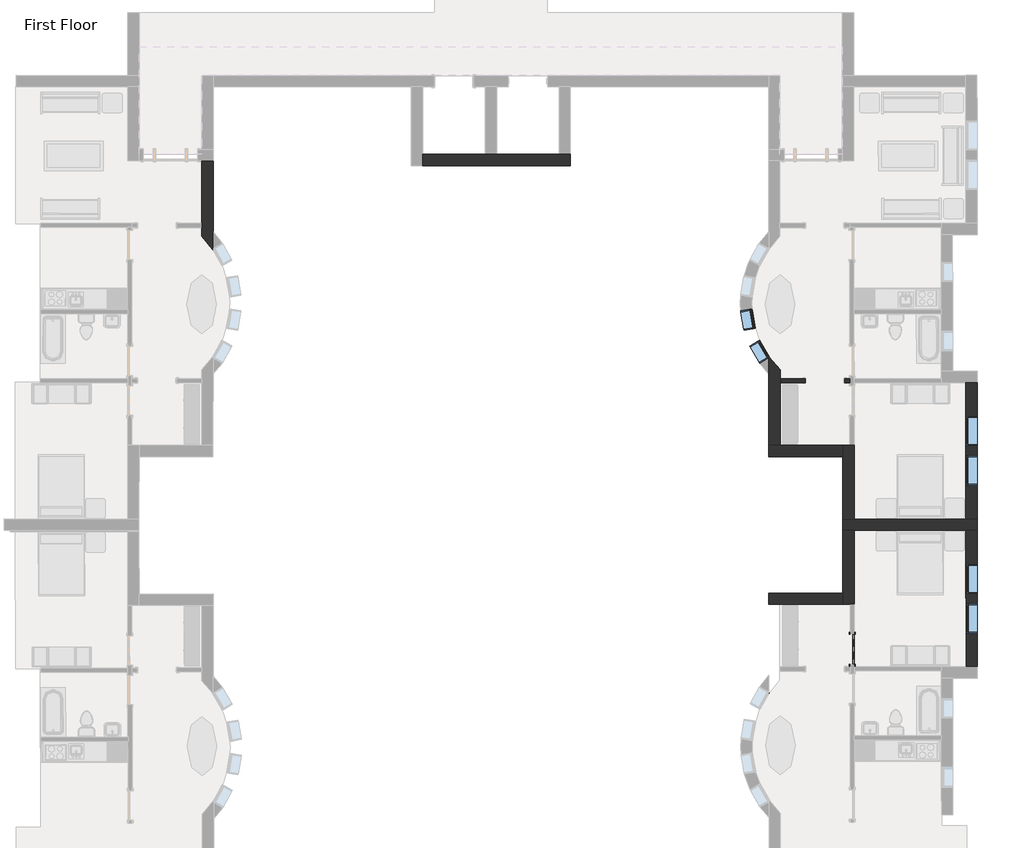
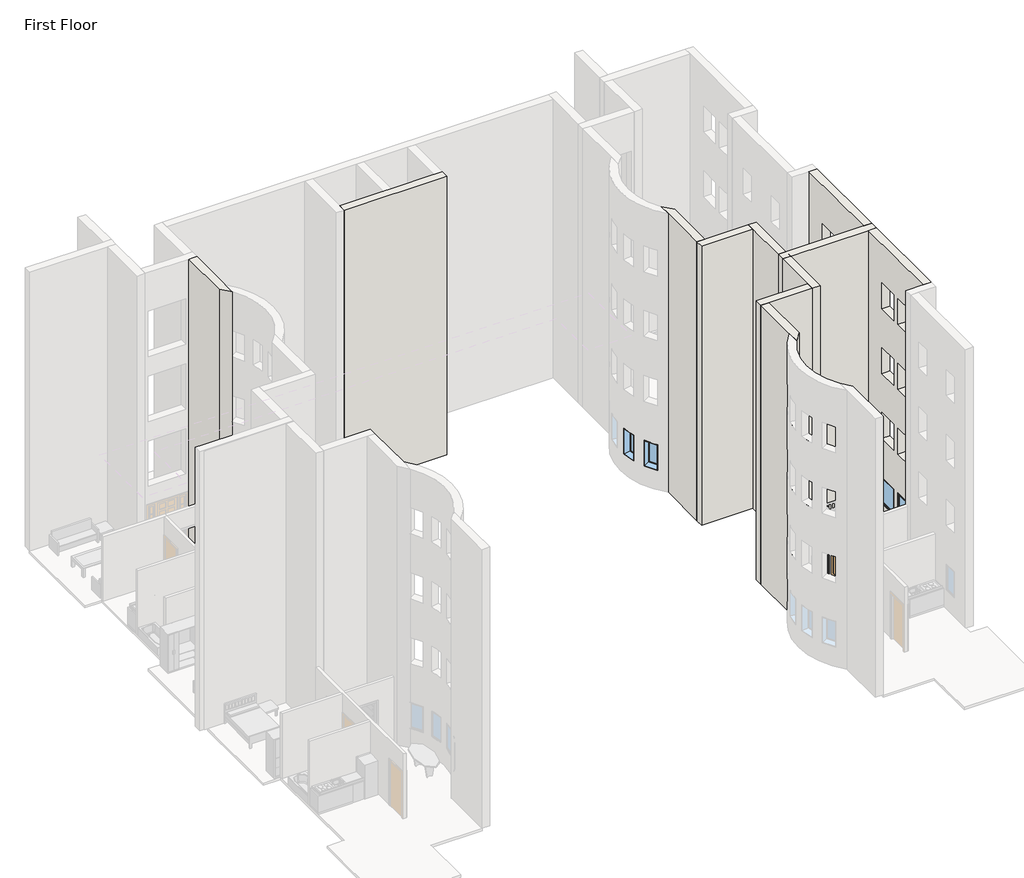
# One storey, part 10 of 21: 13 walls, 6 windows, 1 door.
"""IFC4 building model written with IfcOpenShell, lengths in millimetres."""

from ifc_helpers import new_model, si_unit, frame, origin, origin_with_axes, place, context, project, spatial, polyline, circle_curve, outline, extrude, faceted_brep, transform, mapped, element, save
from ifc_brep_helpers import plane_surface, revolved_surface, advanced_brep
from components import door_2e3b4da2, window_ed80354a, window_15c49d37, window_0e2fc6ce

model = new_model("IFC4")

# Units and contexts
model_context = context("Model", 3, world=origin())
ifc_project = project(units=[si_unit("LENGTHUNIT", "METRE", prefix="MILLI")], contexts=[model_context])

# Site, building, storey
site = spatial("IfcSite", under=ifc_project)
building = spatial("IfcBuilding", under=site)
storey = spatial("IfcBuildingStorey", under=building, Name="First Floor", Elevation=0.0)

# Door
placement = place(None, origin())
door_shape = door_2e3b4da2(model_context)
element("IfcDoor", 1, ObjectType="Single-Decorative 2 : 36\" x 84\"", at=placement, inside=storey, context=model_context, shape_type="MappedRepresentation", body=[
    mapped(door_shape, transform((-3761.7306035, -15502.2904409, 0.0), x_axis=(0.0007588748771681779, -0.9999997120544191, 0.0), y_axis=(0.9999997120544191, 0.0007588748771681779, 0.0), z_axis=(0.0, 0.0, 1.0))),
])

# Walls
element("IfcWall", 2, ObjectType="Exterior - Brick on Mtl. Stud", at=placement, inside=storey, context=model_context, shape_type="Brep", body=[
    faceted_brep([(-17044.9589563, -550.3808133, 0.0), (-12472.9589563, -550.3808133, 0.0), (-12472.9589563, -550.3808133, 13106.4), (-17044.9589563, -550.3808133, 13106.4), (-17044.9589563, -197.9558133, 0.0), (-17044.9589563, -197.9558133, 13106.4), (-15111.3839563, -197.9558133, 13106.4), (-14758.9589563, -197.9558133, 13106.4), (-12825.3839563, -197.9558133, 13106.4), (-12472.9589563, -197.9558133, 13106.4), (-12472.9589563, -197.9558133, 0.0), (-12825.3839563, -197.9558133, 0.0), (-14758.9589563, -197.9558133, 0.0), (-15111.3839563, -197.9558133, 0.0)], [[[0, 1, 2, 3]], [[4, 5, 6, 7, 8, 9, 10, 11, 12, 13]], [[1, 0, 4, 13, 12, 11, 10]], [[3, 2, 9, 8, 7, 6, 5]], [[2, 1, 10, 9]], [[0, 3, 5, 4]]]),
])
element("IfcWall", 3, ObjectType="Exterior - Brick on Mtl. Stud", at=placement, inside=storey, context=model_context, shape_type="Brep", body=[
    faceted_brep([(108.7131267, -11473.4520983, 0.0), (-243.7117718, -11473.7195448, 0.0), (-3701.2857762, -11476.3434116, 0.0), (-4053.7106747, -11476.6108581, 0.0), (-4053.7106747, -11476.6108581, 13106.4), (-3701.2857762, -11476.3434116, 13106.4), (-243.7117718, -11473.7195448, 13106.4), (108.7131267, -11473.4520983, 13106.4), (108.9805732, -11825.8769968, 0.0), (108.9805732, -11825.8769968, 13106.4), (-243.4443253, -11826.1444433, 13106.4), (-3701.0183297, -11828.7683101, 13106.4), (-4053.4432282, -11829.0357566, 13106.4), (-4053.4432282, -11829.0357566, 0.0), (-3701.0183297, -11828.7683101, 0.0), (-243.4443253, -11826.1444433, 0.0)], [[[0, 1, 2, 3, 4, 5, 6, 7]], [[8, 9, 10, 11, 12, 13, 14, 15]], [[3, 2, 1, 0, 8, 15, 14, 13]], [[7, 6, 5, 4, 12, 11, 10, 9]], [[4, 3, 13, 12]], [[0, 7, 9, 8]]]),
])
element("IfcWall", 4, ObjectType="Exterior - Brick on Mtl. Stud", at=placement, inside=storey, context=model_context, shape_type="Brep", body=[
    faceted_brep([(-3701.2857762, -11476.3434116, 0.0), (-3703.0205642, -9190.3440698, 0.0), (-3703.0205642, -9190.3440698, 13106.4), (-3701.2857762, -11476.3434116, 13106.4), (-4053.7106747, -11476.6108581, 0.0), (-4053.7106747, -11476.6108581, 13106.4), (-4055.1780162, -9543.0364148, 13106.4), (-4055.4454627, -9190.6115163, 13106.4), (-4055.4454627, -9190.6115163, 0.0), (-4055.1780162, -9543.0364148, 0.0)], [[[0, 1, 2, 3]], [[4, 5, 6, 7, 8, 9]], [[1, 0, 4, 9, 8]], [[3, 2, 7, 6, 5]], [[2, 1, 8, 7]], [[0, 3, 5, 4]]]),
])
element("IfcWall", 5, ObjectType="Exterior - Brick on Mtl. Stud", at=placement, inside=storey, context=model_context, shape_type="Brep", body=[
    faceted_brep([(-4055.4454627, -9190.6115163, 0.0), (-5989.0199059, -9192.0788578, 0.0), (-6341.4448044, -9192.3463043, 0.0), (-6341.4448044, -9192.3463043, 13106.4), (-5989.0199059, -9192.0788578, 13106.4), (-4055.4454627, -9190.6115163, 13106.4), (-4055.1780162, -9543.0364148, 0.0), (-4055.1780162, -9543.0364148, 13106.4), (-6341.177358, -9544.7712028, 13106.4), (-6341.177358, -9544.7712028, 0.0)], [[[0, 1, 2, 3, 4, 5]], [[6, 7, 8, 9]], [[2, 1, 0, 6, 9]], [[5, 4, 3, 8, 7]], [[3, 2, 9, 8]], [[0, 5, 7, 6]]]),
])
element("IfcWall", 6, ObjectType="Exterior - Brick on Mtl. Stud", at=placement, inside=storey, context=model_context, shape_type="AdvancedBrep", body=[
    advanced_brep(
    [(-5990.7921847, -6856.676378, 0.0), (-5990.5836245, -7131.5044511, 0.0), (-5990.4872474, -7258.5044146, 0.0), (-5989.0199059, -9192.0788578, 0.0), (-6341.4448044, -9192.3463043, 0.0), (-6343.1078046, -7000.9446693, 0.0), (-6343.5311767, -6443.0502457, 0.0), (-5989.0199059, -9192.0788578, 13106.4), (-5990.7921847, -6856.676378, 13106.4), (-6343.5311767, -6443.0502457, 13106.4), (-6343.1078046, -7000.9446693, 13106.4), (-6341.4448044, -9192.3463043, 13106.4), (-6343.5311767, -6443.0502457, 11277.6), (-6343.4937731, -6492.3384795, 11277.6), (-6343.4937731, -6492.3384795, 10058.4), (-6343.5311767, -6443.0502457, 10058.4), (-6343.5311767, -6443.0502457, 8229.6), (-6343.4937731, -6492.3384795, 8229.6), (-6343.4937731, -6492.3384795, 7010.4), (-6343.5311767, -6443.0502457, 7010.4), (-6343.5311767, -6443.0502457, 5181.6), (-6343.4937731, -6492.3384795, 5181.6), (-6343.4937731, -6492.3384795, 3962.4), (-6343.5311767, -6443.0502457, 3962.4), (-6343.5311767, -6443.0502457, 2133.6), (-6343.4937731, -6492.3384795, 2133.6), (-6343.4937731, -6492.3384795, 914.4), (-6343.5311767, -6443.0502457, 914.4), (-6338.0556769, -6450.8349117, 914.4), (-6338.0556769, -6450.8349117, 2133.6), (-6338.0556769, -6450.8349117, 3962.4), (-6338.0556769, -6450.8349117, 5181.6), (-6338.0556769, -6450.8349117, 7010.4), (-6338.0556769, -6450.8349117, 8229.6), (-6338.0556769, -6450.8349117, 10058.4), (-6338.0556769, -6450.8349117, 11277.6), (-6321.5024321, -6479.7480976, 914.4), (-6321.5024321, -6479.7480976, 2133.6), (-6321.5024321, -6479.7480976, 10058.4), (-6321.5024321, -6479.7480976, 11277.6), (-6321.5024321, -6479.7480976, 3962.4), (-6321.5024321, -6479.7480976, 5181.6), (-6321.5024321, -6479.7480976, 7010.4), (-6321.5024321, -6479.7480976, 8229.6)],
    [
        (0, 1),
        (1, 2),
        (2, 3),
        (3, 4),
        (4, 5),
        (5, 6),
        (6, 0, circle_curve(frame((-3991.8614496, -4794.7744983, 0.0), z_axis=(0.0, 0.0, 1.0), x_axis=(-0.0007588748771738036, 0.999999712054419, 0.0)), 2871.7875)),
        (7, 8),
        (8, 9, circle_curve(frame((-3991.8614496, -4794.7744983, 13106.4), z_axis=(0.0, 0.0, -1.0), x_axis=(-0.0007588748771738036, 0.999999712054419, 0.0)), 2871.7875)),
        (9, 10),
        (10, 11),
        (11, 7),
        (0, 8),
        (7, 3),
        (4, 11),
        (9, 12),
        (12, 13),
        (13, 14),
        (14, 15),
        (15, 16),
        (16, 17),
        (17, 18),
        (18, 19),
        (19, 20),
        (20, 21),
        (21, 22),
        (22, 23),
        (23, 24),
        (24, 25),
        (25, 26),
        (26, 27),
        (27, 6),
        (27, 28, circle_curve(frame((-3991.8614496, -4794.7744983, 914.4), z_axis=(0.0, 0.0, 1.0), x_axis=(-0.0007588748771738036, 0.999999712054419, 0.0)), 2871.7875)),
        (28, 29),
        (29, 24, circle_curve(frame((-3991.8614496, -4794.7744983, 2133.6), z_axis=(0.0, 0.0, -1.0), x_axis=(-0.0007588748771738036, 0.999999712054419, 0.0)), 2871.7875)),
        (23, 30, circle_curve(frame((-3991.8614496, -4794.7744983, 3962.4), z_axis=(0.0, 0.0, 1.0), x_axis=(-0.0007588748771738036, 0.999999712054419, 0.0)), 2871.7875)),
        (30, 31),
        (31, 20, circle_curve(frame((-3991.8614496, -4794.7744983, 5181.6), z_axis=(0.0, 0.0, -1.0), x_axis=(-0.0007588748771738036, 0.999999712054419, 0.0)), 2871.7875)),
        (19, 32, circle_curve(frame((-3991.8614496, -4794.7744983, 7010.4), z_axis=(0.0, 0.0, 1.0), x_axis=(-0.0007588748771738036, 0.999999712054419, 0.0)), 2871.7875)),
        (32, 33),
        (33, 16, circle_curve(frame((-3991.8614496, -4794.7744983, 8229.6), z_axis=(0.0, 0.0, -1.0), x_axis=(-0.0007588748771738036, 0.999999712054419, 0.0)), 2871.7875)),
        (15, 34, circle_curve(frame((-3991.8614496, -4794.7744983, 10058.4), z_axis=(0.0, 0.0, 1.0), x_axis=(-0.0007588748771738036, 0.999999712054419, 0.0)), 2871.7875)),
        (34, 35),
        (35, 12, circle_curve(frame((-3991.8614496, -4794.7744983, 11277.6), z_axis=(0.0, 0.0, -1.0), x_axis=(-0.0007588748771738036, 0.999999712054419, 0.0)), 2871.7875)),
        (36, 37),
        (37, 29),
        (28, 36),
        (26, 36),
        (25, 37),
        (38, 39),
        (39, 35),
        (34, 38),
        (14, 38),
        (13, 39),
        (40, 41),
        (41, 31),
        (30, 40),
        (22, 40),
        (21, 41),
        (42, 43),
        (43, 33),
        (32, 42),
        (18, 42),
        (17, 43),
    ],
    [
        plane_surface(frame((-5988.8861827, -9368.2913071, 0.0), z_axis=(0.0, 0.0, -1.0), x_axis=(-0.999999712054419, -0.0007588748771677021, 0.0))),
        plane_surface(frame((-5990.7366232, -6929.8920092, 13106.4), z_axis=(0.0, 0.0, 1.0), x_axis=(-0.999999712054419, -0.0007588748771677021, 0.0))),
        plane_surface(frame((-5988.8861827, -9368.2913071, 0.0), z_axis=(0.999999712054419, 0.0007588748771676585, 0.0), x_axis=(-0.0007588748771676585, 0.999999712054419, 0.0))),
        plane_surface(frame((-6341.3110812, -9368.5587536, 0.0), z_axis=(-0.999999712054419, -0.0007588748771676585, 0.0), x_axis=(0.0007588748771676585, -0.999999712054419, 0.0))),
        plane_surface(frame((-3879.2330134, -9190.4777931, 0.0), z_axis=(0.0007588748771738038, -0.9999997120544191, 0.0), x_axis=(-0.9999997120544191, -0.0007588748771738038, 0.0))),
        revolved_surface(polyline([(-3994.040776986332, -1922.9878252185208, 0.0), (-3994.040776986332, -1922.9878252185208, 13106.399999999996)]), (-3991.8614496, -4794.7744983, 0.0), (0.0, 0.0, -0.9999999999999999)),
        plane_surface(frame((-6624.3820735, -5950.7149391, 2133.6), z_axis=(-0.8678365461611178, -0.49684980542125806, 0.0), x_axis=(0.0, 0.0, 1.0))),
        plane_surface(frame((-6928.8596513, -6125.0330477, 914.4), z_axis=(0.0, 0.0, 1.0), x_axis=(0.867836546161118, 0.4968498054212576, 0.0))),
        plane_surface(frame((-6625.9800099, -6654.0662062, 914.4), z_axis=(-0.4968498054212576, 0.867836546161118, 0.0), x_axis=(0.867836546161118, 0.4968498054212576, 0.0))),
        plane_surface(frame((-6625.9800099, -6654.0662062, 2133.6), z_axis=(0.0, 0.0, -1.0), x_axis=(0.867836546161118, 0.4968498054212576, 0.0))),
        plane_surface(frame((-6624.3820735, -5950.7149391, 11277.6), z_axis=(-0.8678365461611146, -0.49684980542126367, 0.0), x_axis=(0.0, 0.0, 1.0))),
        plane_surface(frame((-6928.8596513, -6125.0330477, 10058.4), z_axis=(0.0, 0.0, 1.0000000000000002), x_axis=(0.8678365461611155, 0.4968498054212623, 0.0))),
        plane_surface(frame((-6625.9800099, -6654.0662062, 10058.4), z_axis=(-0.4968498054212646, 0.8678365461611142, 0.0), x_axis=(0.8678365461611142, 0.4968498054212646, 0.0))),
        plane_surface(frame((-6625.9800099, -6654.0662062, 11277.6), z_axis=(0.0, 0.0, -1.0000000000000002), x_axis=(0.8678365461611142, 0.4968498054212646, 0.0))),
        plane_surface(frame((-6624.3820735, -5950.7149391, 5181.6), z_axis=(-0.8678365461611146, -0.49684980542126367, 0.0), x_axis=(0.0, 0.0, 1.0))),
        plane_surface(frame((-6928.8596513, -6125.0330477, 3962.4), z_axis=(0.0, 0.0, 1.0000000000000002), x_axis=(0.8678365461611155, 0.4968498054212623, 0.0))),
        plane_surface(frame((-6625.9800099, -6654.0662062, 3962.4), z_axis=(-0.4968498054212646, 0.8678365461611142, 0.0), x_axis=(0.8678365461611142, 0.4968498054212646, 0.0))),
        plane_surface(frame((-6625.9800099, -6654.0662062, 5181.6), z_axis=(0.0, 0.0, -1.0000000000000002), x_axis=(0.8678365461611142, 0.4968498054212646, 0.0))),
        plane_surface(frame((-6624.3820735, -5950.7149391, 8229.6), z_axis=(-0.8678365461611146, -0.49684980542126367, 0.0), x_axis=(0.0, 0.0, 1.0))),
        plane_surface(frame((-6928.8596513, -6125.0330477, 7010.4), z_axis=(0.0, 0.0, 1.0000000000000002), x_axis=(0.8678365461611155, 0.4968498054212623, 0.0))),
        plane_surface(frame((-6625.9800099, -6654.0662062, 7010.4), z_axis=(-0.4968498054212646, 0.8678365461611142, 0.0), x_axis=(0.8678365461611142, 0.4968498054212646, 0.0))),
        plane_surface(frame((-6625.9800099, -6654.0662062, 8229.6), z_axis=(0.0, 0.0, -1.0000000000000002), x_axis=(0.8678365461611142, 0.4968498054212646, 0.0))),
    ],
    [
        (0, [[1, 2, 3, 4, 5, 6, 7]]),
        (1, [[8, 9, 10, 11, 12]]),
        (2, [[-3, -2, -1, 13, -8, 14]]),
        (3, [[-6, -5, 15, -11, -10, 16, 17, 18, 19, 20, 21, 22, 23, 24, 25, 26, 27, 28, 29, 30, 31, 32]]),
        (4, [[-14, -12, -15, -4]]),
        (5, [[-13, -7, -32, 33, 34, 35, -28, 36, 37, 38, -24, 39, 40, 41, -20, 42, 43, 44, -16, -9]]),
        (6, [[45, 46, -34, 47]]),
        (7, [[48, -47, -33, -31]]),
        (8, [[-45, -48, -30, 49]]),
        (9, [[-49, -29, -35, -46]]),
        (10, [[50, 51, -43, 52]]),
        (11, [[53, -52, -42, -19]]),
        (12, [[-50, -53, -18, 54]]),
        (13, [[-54, -17, -44, -51]]),
        (14, [[55, 56, -37, 57]]),
        (15, [[58, -57, -36, -27]]),
        (16, [[-55, -58, -26, 59]]),
        (17, [[-59, -25, -38, -56]]),
        (18, [[60, 61, -40, 62]]),
        (19, [[63, -62, -39, -23]]),
        (20, [[-60, -63, -22, 64]]),
        (21, [[-64, -21, -41, -61]]),
    ],
),
])
element("IfcWall", 7, ObjectType="Exterior - Brick on Mtl. Stud", at=placement, inside=storey, context=model_context, shape_type="SweptSolid", body=[
    extrude(outline(polyline([(-176.2125, 0.0), (-176.2125, -13106.4), (-4395.7875, -13106.4), (-4395.7875, 0.0), (-176.2125, 0.0)]), holes=[polyline([(-2438.4, -8229.6), (-2438.4, -7010.4), (-3352.8, -7010.4), (-3352.8, -8229.6), (-2438.4, -8229.6)]), polyline([(-1219.2000001, -8229.6), (-1219.2000001, -7010.4), (-2133.6000001, -7010.4), (-2133.6000001, -8229.6), (-1219.2000001, -8229.6)]), polyline([(-2438.4, -5181.6), (-2438.4, -3962.4), (-3352.8, -3962.4), (-3352.8, -5181.6), (-2438.4, -5181.6)]), polyline([(-1219.2000001, -5181.6), (-1219.2000001, -3962.4), (-2133.6000001, -3962.4), (-2133.6000001, -5181.6), (-1219.2000001, -5181.6)]), polyline([(-2438.4, -11277.6), (-2438.4, -10058.4), (-3352.8, -10058.4), (-3352.8, -11277.6), (-2438.4, -11277.6)]), polyline([(-1219.2000001, -11277.6), (-1219.2000001, -10058.4), (-2133.6000001, -10058.4), (-2133.6000001, -11277.6), (-1219.2000001, -11277.6)]), polyline([(-2438.4, -2133.6), (-2438.4, -914.4), (-3352.8, -914.4), (-3352.8, -2133.6), (-2438.4, -2133.6)]), polyline([(-1219.2000001, -2133.6), (-1219.2000001, -914.4), (-2133.6000001, -914.4), (-2133.6000001, -2133.6), (-1219.2000001, -2133.6)])]), frame((-243.5780485, -11649.9319941, 0.0), z_axis=(0.999999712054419, 0.0007588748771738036, 0.0), x_axis=(0.0007588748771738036, -0.999999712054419, 0.0)), (0.0, 0.0, 1.0), 352.425),
])
element("IfcWall", 8, ObjectType="Exterior - Brick on Mtl. Stud", at=placement, inside=storey, context=model_context, shape_type="AdvancedBrep", body=[
    advanced_brep(
    [(-23876.4235801, -2735.9088692, 0.0), (-23876.2150199, -2461.080796, 0.0), (-23876.1186428, -2334.0808325, 0.0), (-23874.6513013, -400.5063893, 0.0), (-23522.2264028, -400.7738358, 0.0), (-23523.8894029, -2592.1754708, 0.0), (-23524.3127751, -3150.0698944, 0.0), (-23874.6513013, -400.5063893, 13106.4), (-23876.4235801, -2735.9088692, 13106.4), (-23524.3127751, -3150.0698944, 13106.4), (-23523.8894029, -2592.1754708, 13106.4), (-23522.2264028, -400.7738358, 13106.4), (-23876.4235801, -2735.9088692, 3048.0), (-23876.4235801, -2735.9088692, 6096.0), (-23876.4235801, -2735.9088692, 9144.0), (-23876.4235801, -2735.9088692, 12192.0), (-23524.3127751, -3150.0698944, 11277.6), (-23524.2753715, -3100.7816606, 11277.6), (-23524.2753715, -3100.7816606, 10058.4), (-23524.3127751, -3150.0698944, 10058.4), (-23524.3127751, -3150.0698944, 8229.6), (-23524.2753715, -3100.7816606, 8229.6), (-23524.2753715, -3100.7816606, 7010.4), (-23524.3127751, -3150.0698944, 7010.4), (-23524.3127751, -3150.0698944, 5181.6), (-23524.2753715, -3100.7816606, 5181.6), (-23524.2753715, -3100.7816606, 3962.4), (-23524.3127751, -3150.0698944, 3962.4), (-23524.3127751, -3150.0698944, 2133.6), (-23524.2753715, -3100.7816606, 2133.6), (-23524.2753715, -3100.7816606, 914.4), (-23524.3127751, -3150.0698944, 914.4), (-23529.8628214, -3142.1541785, 914.4), (-23529.8628214, -3142.1541785, 2133.6), (-23529.8628214, -3142.1541785, 3962.4), (-23529.8628214, -3142.1541785, 5181.6), (-23529.8628214, -3142.1541785, 7010.4), (-23529.8628214, -3142.1541785, 8229.6), (-23529.8628214, -3142.1541785, 10058.4), (-23529.8628214, -3142.1541785, 11277.6), (-23546.2981237, -3113.3456835, 914.4), (-23546.2981237, -3113.3456835, 2133.6), (-23546.2981237, -3113.3456835, 10058.4), (-23546.2981237, -3113.3456835, 11277.6), (-23546.2981237, -3113.3456835, 3962.4), (-23546.2981237, -3113.3456835, 5181.6), (-23546.2981237, -3113.3456835, 7010.4), (-23546.2981237, -3113.3456835, 8229.6)],
    [
        (0, 1),
        (1, 2),
        (2, 3),
        (3, 4),
        (4, 5),
        (5, 6),
        (6, 0, circle_curve(frame((-25878.481463, -4794.7744983, 0.0), z_axis=(0.0, 0.0, 1.0), x_axis=(0.0007588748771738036, 0.999999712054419, 0.0)), 2871.7875)),
        (7, 8),
        (8, 9, circle_curve(frame((-25878.481463, -4794.7744983, 13106.4), z_axis=(0.0, 0.0, -1.0), x_axis=(0.0007588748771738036, 0.999999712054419, 0.0)), 2871.7875)),
        (9, 10),
        (10, 11),
        (11, 7),
        (0, 12),
        (12, 13),
        (13, 14),
        (14, 15),
        (15, 8),
        (7, 3),
        (4, 11),
        (9, 16),
        (16, 17),
        (17, 18),
        (18, 19),
        (19, 20),
        (20, 21),
        (21, 22),
        (22, 23),
        (23, 24),
        (24, 25),
        (25, 26),
        (26, 27),
        (27, 28),
        (28, 29),
        (29, 30),
        (30, 31),
        (31, 6),
        (31, 32, circle_curve(frame((-25878.481463, -4794.7744983, 914.4), z_axis=(0.0, 0.0, 1.0), x_axis=(0.0007588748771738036, 0.999999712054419, 0.0)), 2871.7875)),
        (32, 33),
        (33, 28, circle_curve(frame((-25878.481463, -4794.7744983, 2133.6), z_axis=(0.0, 0.0, -1.0), x_axis=(0.0007588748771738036, 0.999999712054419, 0.0)), 2871.7875)),
        (27, 34, circle_curve(frame((-25878.481463, -4794.7744983, 3962.4), z_axis=(0.0, 0.0, 1.0), x_axis=(0.0007588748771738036, 0.999999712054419, 0.0)), 2871.7875)),
        (34, 35),
        (35, 24, circle_curve(frame((-25878.481463, -4794.7744983, 5181.6), z_axis=(0.0, 0.0, -1.0), x_axis=(0.0007588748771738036, 0.999999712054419, 0.0)), 2871.7875)),
        (23, 36, circle_curve(frame((-25878.481463, -4794.7744983, 7010.4), z_axis=(0.0, 0.0, 1.0), x_axis=(0.0007588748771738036, 0.999999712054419, 0.0)), 2871.7875)),
        (36, 37),
        (37, 20, circle_curve(frame((-25878.481463, -4794.7744983, 8229.6), z_axis=(0.0, 0.0, -1.0), x_axis=(0.0007588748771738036, 0.999999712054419, 0.0)), 2871.7875)),
        (19, 38, circle_curve(frame((-25878.481463, -4794.7744983, 10058.4), z_axis=(0.0, 0.0, 1.0), x_axis=(0.0007588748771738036, 0.999999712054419, 0.0)), 2871.7875)),
        (38, 39),
        (39, 16, circle_curve(frame((-25878.481463, -4794.7744983, 11277.6), z_axis=(0.0, 0.0, -1.0), x_axis=(0.0007588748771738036, 0.999999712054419, 0.0)), 2871.7875)),
        (40, 41),
        (41, 33),
        (32, 40),
        (30, 40),
        (29, 41),
        (42, 43),
        (43, 39),
        (38, 42),
        (18, 42),
        (17, 43),
        (44, 45),
        (45, 35),
        (34, 44),
        (26, 44),
        (25, 45),
        (46, 47),
        (47, 37),
        (36, 46),
        (22, 46),
        (21, 47),
    ],
    [
        plane_surface(frame((-23874.5175781, -224.2939401, 0.0), z_axis=(0.0, 0.0, -1.0), x_axis=(0.999999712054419, -0.0007588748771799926, 0.0))),
        plane_surface(frame((-23876.3680186, -2662.6932379, 13106.4), z_axis=(0.0, 0.0, 1.0), x_axis=(0.999999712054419, -0.0007588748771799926, 0.0))),
        plane_surface(frame((-23874.5175781, -224.2939401, 0.0), z_axis=(-0.999999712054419, 0.0007588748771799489, 0.0), x_axis=(-0.0007588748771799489, -0.999999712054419, 0.0))),
        plane_surface(frame((-23522.0926796, -224.5613865, 0.0), z_axis=(0.999999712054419, -0.0007588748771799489, 0.0), x_axis=(0.0007588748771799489, 0.999999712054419, 0.0))),
        revolved_surface(polyline([(-25876.302135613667, -1922.9878252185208, 0.0), (-25876.302135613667, -1922.9878252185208, 13106.399999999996)]), (-25878.481463, -4794.7744983, 0.0), (0.0, 0.0, -0.9999999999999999)),
        plane_surface(frame((-25984.4381938, -398.9053246, 0.0), z_axis=(0.0007588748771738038, 0.9999997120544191, 0.0), x_axis=(0.9999997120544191, -0.0007588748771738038, 0.0))),
        plane_surface(frame((-23244.2217709, -3642.837928, 2133.6), z_axis=(0.8685896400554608, 0.49553207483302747, 0.0), x_axis=(0.0, 0.0, 1.0))),
        plane_surface(frame((-22939.4814853, -3468.9830039, 914.4), z_axis=(0.0, 0.0, 1.0000000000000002), x_axis=(-0.868589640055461, -0.49553207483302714, 0.0))),
        plane_surface(frame((-23241.5578382, -2939.4907593, 914.4), z_axis=(0.49553207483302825, -0.8685896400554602, 0.0), x_axis=(-0.8685896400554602, -0.49553207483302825, 0.0))),
        plane_surface(frame((-23241.5578382, -2939.4907593, 2133.6), z_axis=(0.0, 0.0, -1.0), x_axis=(-0.8685896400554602, -0.49553207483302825, 0.0))),
        plane_surface(frame((-23244.2217709, -3642.837928, 11277.6), z_axis=(0.8685896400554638, 0.49553207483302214, 0.0), x_axis=(0.0, 0.0, 1.0))),
        plane_surface(frame((-22939.4814853, -3468.9830039, 10058.4), z_axis=(0.0, 0.0, 1.0), x_axis=(-0.8685896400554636, -0.4955320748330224, 0.0))),
        plane_surface(frame((-23241.5578382, -2939.4907593, 10058.4), z_axis=(0.4955320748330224, -0.8685896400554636, 0.0), x_axis=(-0.8685896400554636, -0.4955320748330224, 0.0))),
        plane_surface(frame((-23241.5578382, -2939.4907593, 11277.6), z_axis=(0.0, 0.0, -1.0), x_axis=(-0.8685896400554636, -0.4955320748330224, 0.0))),
        plane_surface(frame((-23244.2217709, -3642.837928, 5181.6), z_axis=(0.8685896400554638, 0.49553207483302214, 0.0), x_axis=(0.0, 0.0, 1.0))),
        plane_surface(frame((-22939.4814853, -3468.9830039, 3962.4), z_axis=(0.0, 0.0, 1.0), x_axis=(-0.8685896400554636, -0.4955320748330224, 0.0))),
        plane_surface(frame((-23241.5578382, -2939.4907593, 3962.4), z_axis=(0.4955320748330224, -0.8685896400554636, 0.0), x_axis=(-0.8685896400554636, -0.4955320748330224, 0.0))),
        plane_surface(frame((-23241.5578382, -2939.4907593, 5181.6), z_axis=(0.0, 0.0, -1.0), x_axis=(-0.8685896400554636, -0.4955320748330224, 0.0))),
        plane_surface(frame((-23244.2217709, -3642.837928, 8229.6), z_axis=(0.8685896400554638, 0.49553207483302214, 0.0), x_axis=(0.0, 0.0, 1.0))),
        plane_surface(frame((-22939.4814853, -3468.9830039, 7010.4), z_axis=(0.0, 0.0, 1.0), x_axis=(-0.8685896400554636, -0.4955320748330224, 0.0))),
        plane_surface(frame((-23241.5578382, -2939.4907593, 7010.4), z_axis=(0.4955320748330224, -0.8685896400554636, 0.0), x_axis=(-0.8685896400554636, -0.4955320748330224, 0.0))),
        plane_surface(frame((-23241.5578382, -2939.4907593, 8229.6), z_axis=(0.0, 0.0, -1.0), x_axis=(-0.8685896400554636, -0.4955320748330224, 0.0))),
    ],
    [
        (0, [[1, 2, 3, 4, 5, 6, 7]]),
        (1, [[8, 9, 10, 11, 12]]),
        (2, [[-3, -2, -1, 13, 14, 15, 16, 17, -8, 18]]),
        (3, [[-6, -5, 19, -11, -10, 20, 21, 22, 23, 24, 25, 26, 27, 28, 29, 30, 31, 32, 33, 34, 35, 36]]),
        (4, [[-7, -36, 37, 38, 39, -32, 40, 41, 42, -28, 43, 44, 45, -24, 46, 47, 48, -20, -9, -17, -16, -15, -14, -13]]),
        (5, [[-18, -12, -19, -4]]),
        (6, [[49, 50, -38, 51]]),
        (7, [[52, -51, -37, -35]]),
        (8, [[-49, -52, -34, 53]]),
        (9, [[-53, -33, -39, -50]]),
        (10, [[54, 55, -47, 56]]),
        (11, [[57, -56, -46, -23]]),
        (12, [[-54, -57, -22, 58]]),
        (13, [[-58, -21, -48, -55]]),
        (14, [[59, 60, -41, 61]]),
        (15, [[62, -61, -40, -31]]),
        (16, [[-59, -62, -30, 63]]),
        (17, [[-63, -29, -42, -60]]),
        (18, [[64, 65, -44, 66]]),
        (19, [[67, -66, -43, -27]]),
        (20, [[-64, -67, -26, 68]]),
        (21, [[-68, -25, -45, -65]]),
    ],
),
])
element("IfcWall", 9, ObjectType="Exterior - Brick on Mtl. Stud", at=placement, inside=storey, context=model_context, shape_type="SweptSolid", body=[
    extrude(outline(polyline([(-3701.2857762, -11476.3434116), (-243.7117718, -11473.7195448), (-243.4443253, -11826.1444433), (-3701.0183297, -11828.7683101), (-3701.2857762, -11476.3434116)])), origin_with_axes(), (0.0, 0.0, 1.0), 13106.4),
])
element("IfcWall", 10, ObjectType="Exterior - Brick on Mtl. Stud", at=placement, inside=storey, context=model_context, shape_type="Brep", body=[
    faceted_brep([(-4053.4432282, -11829.0357566, 0.0), (-4051.9758867, -13762.6101998, 0.0), (-4051.7084403, -14115.0350984, 0.0), (-4051.7084403, -14115.0350984, 13106.4), (-4051.9758867, -13762.6101998, 13106.4), (-4053.4432282, -11829.0357566, 13106.4), (-3701.0183297, -11828.7683101, 0.0), (-3701.0183297, -11828.7683101, 13106.4), (-3699.2835417, -14114.7676519, 13106.4), (-3699.2835417, -14114.7676519, 0.0)], [[[0, 1, 2, 3, 4, 5]], [[6, 7, 8, 9]], [[2, 1, 0, 6, 9]], [[5, 4, 3, 8, 7]], [[3, 2, 9, 8]], [[0, 5, 7, 6]]]),
])
element("IfcWall", 11, ObjectType="Exterior - Brick on Mtl. Stud", at=placement, inside=storey, context=model_context, shape_type="Brep", body=[
    faceted_brep([(-4051.9758867, -13762.6101998, 0.0), (-6337.9752285, -13764.3449878, 0.0), (-6337.9752285, -13764.3449878, 13106.4), (-4051.9758867, -13762.6101998, 13106.4), (-4051.7084403, -14115.0350984, 0.0), (-4051.7084403, -14115.0350984, 13106.4), (-5985.2828835, -14116.5024398, 13106.4), (-6337.707782, -14116.7698863, 13106.4), (-6337.707782, -14116.7698863, 0.0), (-5985.2828835, -14116.5024398, 0.0)], [[[0, 1, 2, 3]], [[4, 5, 6, 7, 8, 9]], [[1, 0, 4, 9, 8]], [[3, 2, 7, 6, 5]], [[2, 1, 8, 7]], [[0, 3, 5, 4]]]),
])
element("IfcWall", 12, ObjectType="Exterior - Brick on Mtl. Stud", at=placement, inside=storey, context=model_context, shape_type="AdvancedBrep", body=[
    advanced_brep(
    [(-6335.6214097, -16866.0659449, 0.0), (-6336.0447819, -16308.1715213, 0.0), (-6337.707782, -14116.7698863, 0.0), (-5985.2828835, -14116.5024398, 0.0), (-5983.815542, -16050.0768831, 0.0), (-5983.7191649, -16177.0768465, 0.0), (-5983.5106047, -16451.9049197, 0.0), (-6337.707782, -14116.7698863, 13106.4), (-6336.0447819, -16308.1715213, 13106.4), (-6335.6214097, -16866.0659449, 13106.4), (-5983.5106047, -16451.9049197, 13106.4), (-5985.2828835, -14116.5024398, 13106.4), (-6335.6214097, -16866.0659449, 914.4), (-6335.6588133, -16816.7777111, 914.4), (-6335.6588133, -16816.7777111, 2133.6), (-6335.6214097, -16866.0659449, 2133.6), (-6335.6214097, -16866.0659449, 3962.4), (-6335.6588133, -16816.7777111, 3962.4), (-6335.6588133, -16816.7777111, 5181.6), (-6335.6214097, -16866.0659449, 5181.6), (-6335.6214097, -16866.0659449, 7010.4), (-6335.6588133, -16816.7777111, 7010.4), (-6335.6588133, -16816.7777111, 8229.6), (-6335.6214097, -16866.0659449, 8229.6), (-6335.6214097, -16866.0659449, 10058.4), (-6335.6588133, -16816.7777111, 10058.4), (-6335.6588133, -16816.7777111, 11277.6), (-6335.6214097, -16866.0659449, 11277.6), (-6330.0713635, -16858.150229, 11277.6), (-6330.0713635, -16858.150229, 10058.4), (-6330.0713635, -16858.150229, 8229.6), (-6330.0713635, -16858.150229, 7010.4), (-6330.0713635, -16858.150229, 5181.6), (-6330.0713635, -16858.150229, 3962.4), (-6330.0713635, -16858.150229, 2133.6), (-6330.0713635, -16858.150229, 914.4), (-6313.6360611, -16829.341734, 2133.6), (-6313.6360611, -16829.341734, 914.4), (-6313.6360611, -16829.341734, 11277.6), (-6313.6360611, -16829.341734, 10058.4), (-6313.6360611, -16829.341734, 5181.6), (-6313.6360611, -16829.341734, 3962.4), (-6313.6360611, -16829.341734, 8229.6), (-6313.6360611, -16829.341734, 7010.4)],
    [
        (0, 1),
        (1, 2),
        (2, 3),
        (3, 4),
        (4, 5),
        (5, 6),
        (6, 0, circle_curve(frame((-3981.4527218, -18510.7705488, 0.0), z_axis=(0.0, 0.0, 1.0), x_axis=(0.0007588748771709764, -0.9999997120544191, 0.0)), 2871.7875)),
        (7, 8),
        (8, 9),
        (9, 10, circle_curve(frame((-3981.4527218, -18510.7705488, 13106.4), z_axis=(0.0, 0.0, -1.0), x_axis=(0.0007588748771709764, -0.9999997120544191, 0.0)), 2871.7875)),
        (10, 11),
        (11, 7),
        (0, 12),
        (12, 13),
        (13, 14),
        (14, 15),
        (15, 16),
        (16, 17),
        (17, 18),
        (18, 19),
        (19, 20),
        (20, 21),
        (21, 22),
        (22, 23),
        (23, 24),
        (24, 25),
        (25, 26),
        (26, 27),
        (27, 9),
        (7, 2),
        (3, 11),
        (10, 6),
        (27, 28, circle_curve(frame((-3981.4527218, -18510.7705488, 11277.6), z_axis=(0.0, 0.0, -1.0), x_axis=(0.0007588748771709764, -0.9999997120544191, 0.0)), 2871.7875)),
        (28, 29),
        (29, 24, circle_curve(frame((-3981.4527218, -18510.7705488, 10058.4), z_axis=(0.0, 0.0, 1.0), x_axis=(0.0007588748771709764, -0.9999997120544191, 0.0)), 2871.7875)),
        (23, 30, circle_curve(frame((-3981.4527218, -18510.7705488, 8229.6), z_axis=(0.0, 0.0, -1.0), x_axis=(0.0007588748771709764, -0.9999997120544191, 0.0)), 2871.7875)),
        (30, 31),
        (31, 20, circle_curve(frame((-3981.4527218, -18510.7705488, 7010.4), z_axis=(0.0, 0.0, 1.0), x_axis=(0.0007588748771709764, -0.9999997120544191, 0.0)), 2871.7875)),
        (19, 32, circle_curve(frame((-3981.4527218, -18510.7705488, 5181.6), z_axis=(0.0, 0.0, -1.0), x_axis=(0.0007588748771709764, -0.9999997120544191, 0.0)), 2871.7875)),
        (32, 33),
        (33, 16, circle_curve(frame((-3981.4527218, -18510.7705488, 3962.4), z_axis=(0.0, 0.0, 1.0), x_axis=(0.0007588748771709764, -0.9999997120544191, 0.0)), 2871.7875)),
        (15, 34, circle_curve(frame((-3981.4527218, -18510.7705488, 2133.6), z_axis=(0.0, 0.0, -1.0), x_axis=(0.0007588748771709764, -0.9999997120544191, 0.0)), 2871.7875)),
        (34, 35),
        (35, 12, circle_curve(frame((-3981.4527218, -18510.7705488, 914.4), z_axis=(0.0, 0.0, 1.0), x_axis=(0.0007588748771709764, -0.9999997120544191, 0.0)), 2871.7875)),
        (36, 37),
        (37, 35),
        (34, 36),
        (37, 13),
        (36, 14),
        (38, 39),
        (39, 29),
        (28, 38),
        (39, 25),
        (38, 26),
        (40, 41),
        (41, 33),
        (32, 40),
        (41, 17),
        (40, 18),
        (42, 43),
        (43, 31),
        (30, 42),
        (43, 21),
        (42, 22),
    ],
    [
        plane_surface(frame((-6337.8415053, -13940.5574371, 0.0), z_axis=(0.0, 0.0, -1.0), x_axis=(0.999999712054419, 0.0007588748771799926, 0.0))),
        plane_surface(frame((-6335.9910648, -16378.9567349, 13106.4), z_axis=(0.0, 0.0, 1.0), x_axis=(0.999999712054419, 0.0007588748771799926, 0.0))),
        plane_surface(frame((-6337.8415053, -13940.5574371, 0.0), z_axis=(-0.9999997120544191, -0.0007588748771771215, 0.0), x_axis=(0.0007588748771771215, -0.9999997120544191, 0.0))),
        plane_surface(frame((-5985.4166067, -13940.2899906, 0.0), z_axis=(0.9999997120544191, 0.0007588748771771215, 0.0), x_axis=(-0.0007588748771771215, 0.9999997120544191, 0.0))),
        plane_surface(frame((-3875.495991, -14114.9013751, 0.0), z_axis=(-0.0007588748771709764, 0.9999997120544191, 0.0), x_axis=(0.9999997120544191, 0.0007588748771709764, 0.0))),
        revolved_surface(polyline([(-3979.273394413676, -21382.557221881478, 0.0), (-3979.273394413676, -21382.557221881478, 13106.4)]), (-3981.4527218, -18510.7705488, 0.0), (0.0, 0.0, -1.0)),
        plane_surface(frame((-6615.712414, -17358.8339786, 2133.6), z_axis=(-0.868589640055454, 0.4955320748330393, 0.0), x_axis=(0.0, 0.0, -1.0))),
        plane_surface(frame((-6615.712414, -17358.8339786, 914.4), z_axis=(0.0, 0.0, 1.0000000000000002), x_axis=(-0.8685896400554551, 0.49553207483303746, 0.0))),
        plane_surface(frame((-6313.6360611, -16829.341734, 914.4), z_axis=(-0.49553207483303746, -0.8685896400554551, 0.0), x_axis=(-0.8685896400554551, 0.49553207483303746, 0.0))),
        plane_surface(frame((-6313.6360611, -16829.341734, 2133.6), z_axis=(0.0, 0.0, -1.0000000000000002), x_axis=(-0.8685896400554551, 0.49553207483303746, 0.0))),
        plane_surface(frame((-6615.712414, -17358.8339786, 11277.6), z_axis=(-0.8685896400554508, 0.4955320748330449, 0.0), x_axis=(0.0, 0.0, -1.0))),
        plane_surface(frame((-6615.712414, -17358.8339786, 10058.4), z_axis=(0.0, 0.0, 1.0000000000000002), x_axis=(-0.8685896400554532, 0.4955320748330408, 0.0))),
        plane_surface(frame((-6313.6360611, -16829.341734, 10058.4), z_axis=(-0.49553207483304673, -0.8685896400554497, 0.0), x_axis=(-0.8685896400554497, 0.49553207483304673, 0.0))),
        plane_surface(frame((-6313.6360611, -16829.341734, 11277.6), z_axis=(0.0, 0.0, -1.0), x_axis=(-0.8685896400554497, 0.49553207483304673, 0.0))),
        plane_surface(frame((-6615.712414, -17358.8339786, 5181.6), z_axis=(-0.8685896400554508, 0.4955320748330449, 0.0), x_axis=(0.0, 0.0, -1.0))),
        plane_surface(frame((-6615.712414, -17358.8339786, 3962.4), z_axis=(0.0, 0.0, 1.0000000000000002), x_axis=(-0.8685896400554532, 0.4955320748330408, 0.0))),
        plane_surface(frame((-6313.6360611, -16829.341734, 3962.4), z_axis=(-0.49553207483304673, -0.8685896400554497, 0.0), x_axis=(-0.8685896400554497, 0.49553207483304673, 0.0))),
        plane_surface(frame((-6313.6360611, -16829.341734, 5181.6), z_axis=(0.0, 0.0, -1.0), x_axis=(-0.8685896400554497, 0.49553207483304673, 0.0))),
        plane_surface(frame((-6615.712414, -17358.8339786, 8229.6), z_axis=(-0.8685896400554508, 0.4955320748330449, 0.0), x_axis=(0.0, 0.0, -1.0))),
        plane_surface(frame((-6615.712414, -17358.8339786, 7010.4), z_axis=(0.0, 0.0, 1.0000000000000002), x_axis=(-0.8685896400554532, 0.4955320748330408, 0.0))),
        plane_surface(frame((-6313.6360611, -16829.341734, 7010.4), z_axis=(-0.49553207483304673, -0.8685896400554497, 0.0), x_axis=(-0.8685896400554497, 0.49553207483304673, 0.0))),
        plane_surface(frame((-6313.6360611, -16829.341734, 8229.6), z_axis=(0.0, 0.0, -1.0), x_axis=(-0.8685896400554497, 0.49553207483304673, 0.0))),
    ],
    [
        (0, [[1, 2, 3, 4, 5, 6, 7]]),
        (1, [[8, 9, 10, 11, 12]]),
        (2, [[-2, -1, 13, 14, 15, 16, 17, 18, 19, 20, 21, 22, 23, 24, 25, 26, 27, 28, 29, -9, -8, 30]]),
        (3, [[-6, -5, -4, 31, -11, 32]]),
        (4, [[-30, -12, -31, -3]]),
        (5, [[-7, -32, -10, -29, 33, 34, 35, -25, 36, 37, 38, -21, 39, 40, 41, -17, 42, 43, 44, -13]]),
        (6, [[45, 46, -43, 47]]),
        (7, [[48, -14, -44, -46]]),
        (8, [[-45, 49, -15, -48]]),
        (9, [[-49, -47, -42, -16]]),
        (10, [[50, 51, -34, 52]]),
        (11, [[53, -26, -35, -51]]),
        (12, [[-50, 54, -27, -53]]),
        (13, [[-54, -52, -33, -28]]),
        (14, [[55, 56, -40, 57]]),
        (15, [[58, -18, -41, -56]]),
        (16, [[-55, 59, -19, -58]]),
        (17, [[-59, -57, -39, -20]]),
        (18, [[60, 61, -37, 62]]),
        (19, [[63, -22, -38, -61]]),
        (20, [[-60, 64, -23, -63]]),
        (21, [[-64, -62, -36, -24]]),
    ],
),
])
element("IfcWall", 13, ObjectType="Exterior - Brick on Mtl. Stud", at=placement, inside=storey, context=model_context, shape_type="SweptSolid", body=[
    extrude(outline(polyline([(176.2124999, 0.0), (4395.7874999, 0.0), (4395.7874999, -13106.4), (176.2124999, -13106.4), (176.2124999, 0.0)]), holes=[polyline([(2438.3999999, -8229.6), (3352.7999999, -8229.6), (3352.7999999, -7010.4), (2438.3999999, -7010.4), (2438.3999999, -8229.6)]), polyline([(1219.2, -8229.6), (2133.6, -8229.6), (2133.6, -7010.4), (1219.2, -7010.4), (1219.2, -8229.6)]), polyline([(2438.3999999, -5181.6), (3352.7999999, -5181.6), (3352.7999999, -3962.4), (2438.3999999, -3962.4), (2438.3999999, -5181.6)]), polyline([(1219.2, -5181.6), (2133.6, -5181.6), (2133.6, -3962.4), (1219.2, -3962.4), (1219.2, -5181.6)]), polyline([(2438.3999999, -11277.6), (3352.7999999, -11277.6), (3352.7999999, -10058.4), (2438.3999999, -10058.4), (2438.3999999, -11277.6)]), polyline([(1219.2, -11277.6), (2133.6, -11277.6), (2133.6, -10058.4), (1219.2, -10058.4), (1219.2, -11277.6)]), polyline([(2438.3999999, -2133.6), (3352.7999999, -2133.6), (3352.7999999, -914.4), (2438.3999999, -914.4), (2438.3999999, -2133.6)]), polyline([(1219.2, -2133.6), (2133.6, -2133.6), (2133.6, -914.4), (1219.2, -914.4), (1219.2, -2133.6)])]), frame((-243.5780485, -11649.9319941, 0.0), z_axis=(0.9999997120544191, 0.0007588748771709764, 0.0), x_axis=(0.0007588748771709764, -0.9999997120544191, 0.0)), (0.0, 0.0, 1.0), 352.425),
])
element("IfcWall", 14, ObjectType="Interior - 5\" Partition (2-hr)", at=placement, inside=storey, context=model_context, shape_type="SweptSolid", body=[
    extrude(outline(polyline([(-2222.5, 0.0), (-1447.8, 0.0), (-1447.8, -2133.6), (-228.5999999, -2133.6), (-228.5999999, 0.0), (-63.5, 0.0), (-63.5, -3048.0), (-2222.5, -3048.0), (-2222.5, 0.0)])), frame((-3767.9878874, -7256.8178152, 0.0), z_axis=(-0.000758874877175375, 0.9999997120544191, 0.0), x_axis=(0.9999997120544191, 0.000758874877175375, 0.0)), (0.0, 0.0, 1.0), 127.0),
])

# Windows
window_shape = window_ed80354a(model_context)
element("IfcWindow", 15, ObjectType="Fixed : 24\" x 48\"", at=placement, inside=storey, context=model_context, shape_type="MappedRepresentation", body=[
    mapped(window_shape, transform((-6643.4261608, -6268.9339082, 0.0), x_axis=(-0.496849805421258, 0.8678365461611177, 0.0), y_axis=(-0.8678365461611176, -0.49684980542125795, 0.0), z_axis=(0.0, 0.0, 0.9999999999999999))),
])
element("IfcWindow", 16, ObjectType="Fixed : 24\" x 48\"", at=placement, inside=storey, context=model_context, shape_type="MappedRepresentation", body=[
    mapped(window_shape, transform((-6987.5093831, -5274.3939746, 0.0), x_axis=(-0.1704801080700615, 0.9853611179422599, 0.0), y_axis=(-0.9853611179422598, -0.17048010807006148, 0.0), z_axis=(0.0, 0.0, 0.9999999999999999))),
])
window_2_shape = window_15c49d37(model_context)
element("IfcWindow", 17, ObjectType="Fixed : 36\" x 48\"", at=placement, inside=storey, context=model_context, shape_type="MappedRepresentation", body=[
    mapped(window_2_shape, transform((-66.1223346, -13288.0977991, 0.0), x_axis=(-0.0007588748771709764, 0.9999997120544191, 0.0), y_axis=(-0.9999997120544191, -0.0007588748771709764, 0.0), z_axis=(0.0, 0.0, 1.0))),
])
element("IfcWindow", 18, ObjectType="Fixed : 36\" x 48\"", at=placement, inside=storey, context=model_context, shape_type="MappedRepresentation", body=[
    mapped(window_2_shape, transform((-65.1971143, -14507.297448, 0.0), x_axis=(-0.0007588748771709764, 0.9999997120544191, 0.0), y_axis=(-0.9999997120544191, -0.0007588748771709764, 0.0), z_axis=(0.0, 0.0, 1.0))),
])
window_3_shape = window_0e2fc6ce(model_context)
element("IfcWindow", 19, ObjectType="Fixed : 36\" x 48\"", at=placement, inside=storey, context=model_context, shape_type="MappedRepresentation", body=[
    mapped(window_3_shape, transform((-68.608864, -10011.4987426, 0.0), x_axis=(0.0007588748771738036, -0.999999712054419, 0.0), y_axis=(0.999999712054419, 0.0007588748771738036, 0.0), z_axis=(0.0, 0.0, 1.0))),
])
element("IfcWindow", 20, ObjectType="Fixed : 36\" x 48\"", at=placement, inside=storey, context=model_context, shape_type="MappedRepresentation", body=[
    mapped(window_3_shape, transform((-69.5340842, -8792.2990936, 0.0), x_axis=(0.0007588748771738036, -0.999999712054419, 0.0), y_axis=(0.999999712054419, 0.0007588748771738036, 0.0), z_axis=(0.0, 0.0, 1.0))),
])

save(model, "model.ifc")
